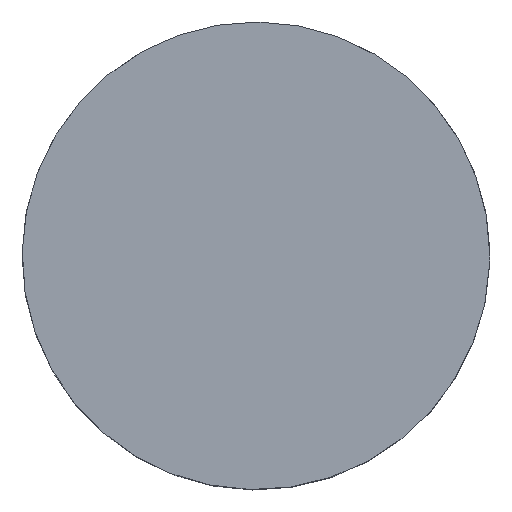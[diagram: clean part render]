
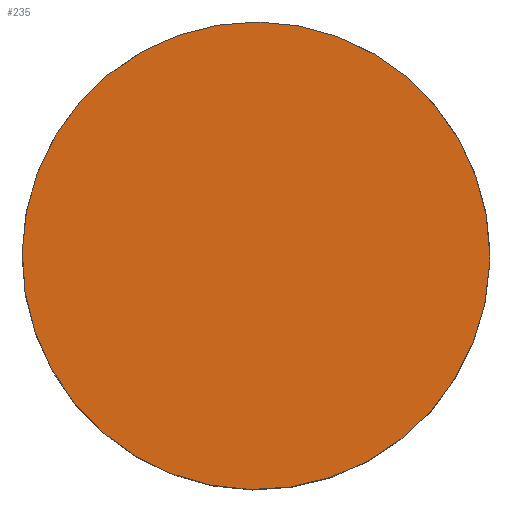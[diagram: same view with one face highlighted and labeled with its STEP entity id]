
A CAD part, top view. The second image highlights one B-rep face of the part: STEP entity #235.
In plain terms, the highlighted planar face has unit normal (0, 0, 1).
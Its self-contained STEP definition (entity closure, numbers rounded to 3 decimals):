
#41=PLANE('',#283);
#61=FACE_OUTER_BOUND('',#88,.T.);
#88=EDGE_LOOP('',(#197));
#107=CIRCLE('',#252,29.5);
#127=VERTEX_POINT('',#383);
#149=EDGE_CURVE('',#127,#127,#107,.T.);
#197=ORIENTED_EDGE('',*,*,#149,.T.);
#235=ADVANCED_FACE('',(#61),#41,.T.);
#252=AXIS2_PLACEMENT_3D('',#384,#303,#304);
#283=AXIS2_PLACEMENT_3D('',#430,#365,#366);
#303=DIRECTION('center_axis',(0.,0.,1.));
#304=DIRECTION('ref_axis',(-1.,0.,0.));
#365=DIRECTION('center_axis',(0.,0.,1.));
#366=DIRECTION('ref_axis',(1.,0.,0.));
#383=CARTESIAN_POINT('',(29.5,0.,32.));
#384=CARTESIAN_POINT('Origin',(0.,0.,32.));
#430=CARTESIAN_POINT('Origin',(0.,0.,
32.));
